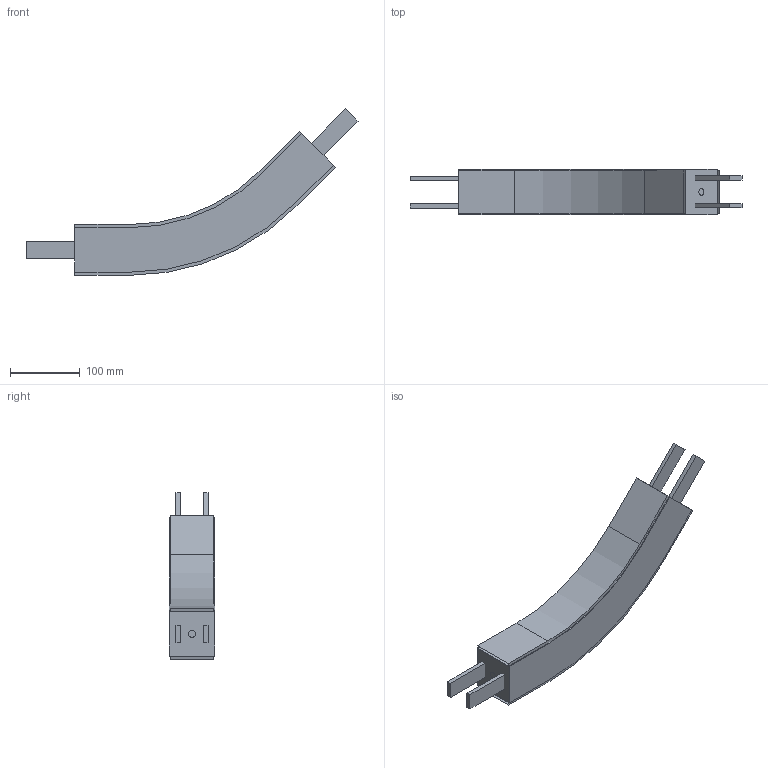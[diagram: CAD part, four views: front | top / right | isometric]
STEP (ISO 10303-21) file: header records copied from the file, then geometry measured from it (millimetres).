
FILE_DESCRIPTION(/* description */ ('Vertikaler Gleitbogen, 45°, R300'),/* implementation_level */ '2;1');
FILE_NAME(/* name */ 'T:\vdz0\Step Daten Website\modulflex FL-System\Vertikale Gleitbögen\FLBV 45R300_43673.stp',/* time_stamp */ '2024-09-03T10:01:49+02:00',/* author */ ('lzb0'),/* organization */ ('modular automation GmbH'),/* preprocessor_version */ 'ST-DEVELOPER v18.1',/* originating_system */ 'Autodesk Inventor 2021',/* authorisation */ '');
FILE_SCHEMA (('AUTOMOTIVE_DESIGN { 1 0 10303 214 3 1 1 }'));
Length unit declared in the file: millimetre
Products named in the file (1): FLBV 45R300
Bounding box: 477.04 x 65 x 239.27 mm (x, y, z)
Volume: 1729776.9 mm3; surface area: 253755.4 mm2
Topology: 5 solids, 9 shells, 52 faces, 126 edges, 84 vertices
Faces by surface type: plane 44, cylinder 8
Full cylindrical faces by diameter (mm): 10 x2
Entity records: 1598 total; most frequent: CARTESIAN_POINT 270, DIRECTION 250, ORIENTED_EDGE 232, EDGE_CURVE 126, LINE 110, VECTOR 110, VERTEX_POINT 84, AXIS2_PLACEMENT_3D 70
